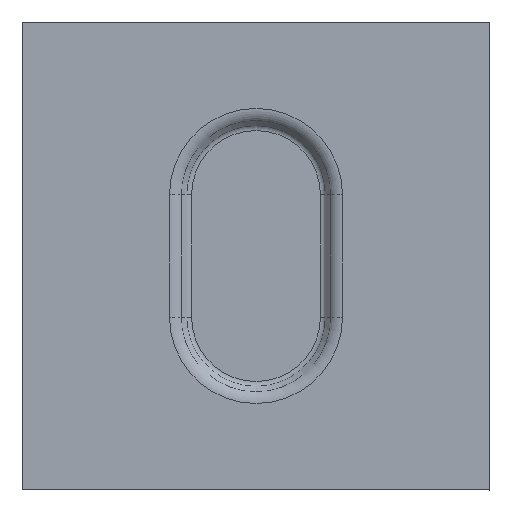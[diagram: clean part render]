
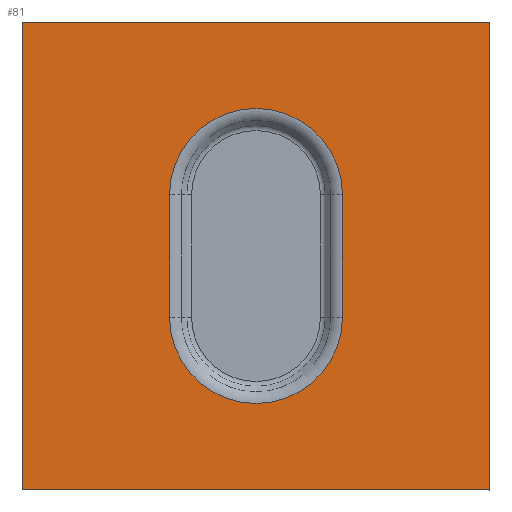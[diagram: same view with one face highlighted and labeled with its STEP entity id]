
A CAD part, top view. The second image highlights one B-rep face of the part: STEP entity #81.
In plain terms, the highlighted planar face has unit normal (0, 0, 1).
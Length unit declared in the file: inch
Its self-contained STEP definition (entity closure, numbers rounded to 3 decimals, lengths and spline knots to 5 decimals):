
#81=ADVANCED_FACE('',(#120,#121),#122,.T.);
#120=FACE_OUTER_BOUND('',#186,.T.);
#121=FACE_BOUND('',#187,.T.);
#122=PLANE('',#188);
#186=EDGE_LOOP('',(#282,#283,#284,#285));
#187=EDGE_LOOP('',(#286,#287,#288,#289));
#188=AXIS2_PLACEMENT_3D('',#290,#291,#292);
#282=ORIENTED_EDGE('',*,*,#489,.T.);
#283=ORIENTED_EDGE('',*,*,#490,.T.);
#284=ORIENTED_EDGE('',*,*,#491,.T.);
#285=ORIENTED_EDGE('',*,*,#492,.T.);
#286=ORIENTED_EDGE('',*,*,#473,.F.);
#287=ORIENTED_EDGE('',*,*,#477,.F.);
#288=ORIENTED_EDGE('',*,*,#482,.F.);
#289=ORIENTED_EDGE('',*,*,#481,.F.);
#290=CARTESIAN_POINT('',(-5.6873,1.01,0.613));
#291=DIRECTION('',(0.,0.,1.0));
#292=DIRECTION('',(1.0,0.,0.));
#473=EDGE_CURVE('',#541,#543,#544,.T.);
#477=EDGE_CURVE('',#549,#541,#551,.T.);
#481=EDGE_CURVE('',#543,#553,#557,.T.);
#482=EDGE_CURVE('',#553,#549,#558,.T.);
#489=EDGE_CURVE('',#568,#569,#570,.T.);
#490=EDGE_CURVE('',#569,#571,#572,.T.);
#491=EDGE_CURVE('',#571,#573,#574,.T.);
#492=EDGE_CURVE('',#573,#568,#575,.T.);
#541=VERTEX_POINT('',#649);
#543=VERTEX_POINT('',#651);
#544=LINE('',#652,#653);
#549=VERTEX_POINT('',#659);
#551=CIRCLE('',#661,0.36949);
#553=VERTEX_POINT('',#663);
#557=CIRCLE('',#667,0.36949);
#558=LINE('',#668,#669);
#568=VERTEX_POINT('',#684);
#569=VERTEX_POINT('',#685);
#570=LINE('',#686,#687);
#571=VERTEX_POINT('',#688);
#572=LINE('',#689,#690);
#573=VERTEX_POINT('',#691);
#574=LINE('',#692,#693);
#575=LINE('',#694,#695);
#649=CARTESIAN_POINT('',(-10.56761,-0.0335,0.613));
#651=CARTESIAN_POINT('',(-10.56761,0.4885,0.613));
#652=CARTESIAN_POINT('',(-10.56761,0.65177,0.613));
#653=VECTOR('',#795,1.0);
#659=CARTESIAN_POINT('',(-11.30659,-0.0335,0.613));
#661=AXIS2_PLACEMENT_3D('',#803,#804,#805);
#663=CARTESIAN_POINT('',(-11.30659,0.4885,0.613));
#667=AXIS2_PLACEMENT_3D('',#815,#816,#817);
#668=CARTESIAN_POINT('',(-11.30659,0.66373,0.613));
#669=VECTOR('',#818,1.0);
#684=CARTESIAN_POINT('',(-11.9371,-0.7725,0.613));
#685=CARTESIAN_POINT('',(-9.9371,-0.7725,0.613));
#686=CARTESIAN_POINT('',(12176.26483,-0.7725,0.613));
#687=VECTOR('',#827,1.0);
#688=CARTESIAN_POINT('',(-9.9371,1.2275,0.613));
#689=CARTESIAN_POINT('',(-9.9371,43126.72125,0.613));
#690=VECTOR('',#828,1.0);
#691=CARTESIAN_POINT('',(-11.9371,1.2275,0.613));
#692=CARTESIAN_POINT('',(13999.94126,1.2275,0.613));
#693=VECTOR('',#829,1.0);
#694=CARTESIAN_POINT('',(-11.9371,9421.45174,0.613));
#695=VECTOR('',#830,1.0);
#795=DIRECTION('',(0.,1.0,0.));
#803=CARTESIAN_POINT('',(-10.9371,-0.0335,0.613));
#804=DIRECTION('',(0.,0.,1.0));
#805=DIRECTION('',(0.,-1.0,0.));
#815=CARTESIAN_POINT('',(-10.9371,0.4885,0.613));
#816=DIRECTION('',(0.,0.,1.0));
#817=DIRECTION('',(0.,1.0,0.));
#818=DIRECTION('',(0.,-1.0,0.));
#827=DIRECTION('',(1.0,0.,0.));
#828=DIRECTION('',(0.0,1.0,0.));
#829=DIRECTION('',(-1.0,0.,0.));
#830=DIRECTION('',(0.0,-1.0,0.));
